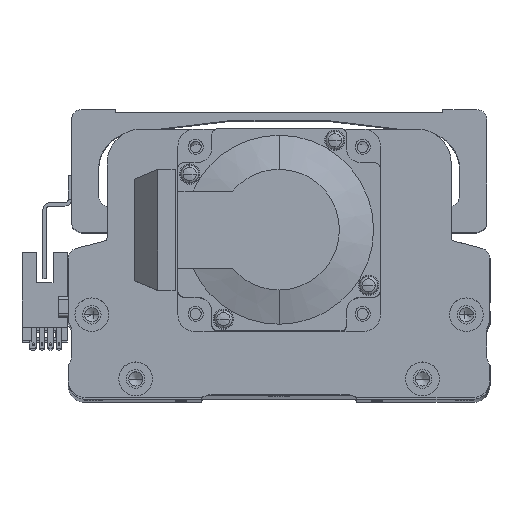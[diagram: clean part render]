
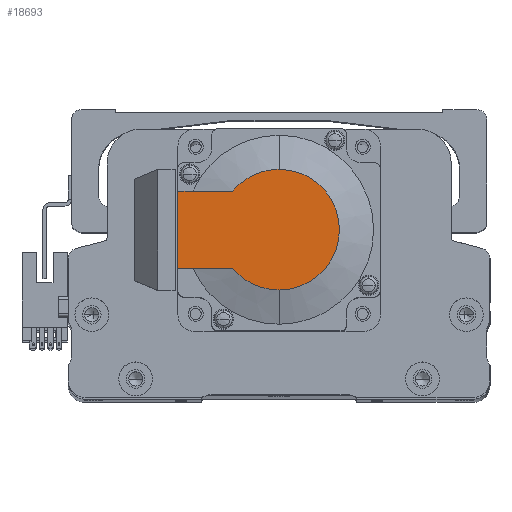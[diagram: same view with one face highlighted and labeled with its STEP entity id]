
A CAD part, top view. The second image highlights one B-rep face of the part: STEP entity #18693.
In plain terms, the highlighted planar face has unit normal (0, 0, 1) as drawn and (-1, 0, 0) by its records, which use the part's own axes.
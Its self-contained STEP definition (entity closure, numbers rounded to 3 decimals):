
#177 = DIRECTION ( 'NONE',  ( 0., 0., -1. ) ) ;
#1240 = ORIENTED_EDGE ( 'NONE', *, *, #6701, .T. ) ;
#1942 = CARTESIAN_POINT ( 'NONE',  ( -118.5, 30., -11.45 ) ) ;
#2102 = DIRECTION ( 'NONE',  ( 0., 0., -1. ) ) ;
#4297 = EDGE_CURVE ( 'NONE', #17519, #7636, #28278, .T. ) ;
#4546 = ORIENTED_EDGE ( 'NONE', *, *, #4297, .T. ) ;
#4598 = CARTESIAN_POINT ( 'NONE',  ( -118.5, 0., 0. ) ) ;
#4837 = DIRECTION ( 'NONE',  ( -1., 0., 0. ) ) ;
#5755 = EDGE_CURVE ( 'NONE', #17801, #44362, #22186, .T. ) ;
#6701 = EDGE_CURVE ( 'NONE', #29021, #17801, #25103, .T. ) ;
#7636 = VERTEX_POINT ( 'NONE', #39114 ) ;
#7734 = EDGE_CURVE ( 'NONE', #44362, #17519, #36730, .T. ) ;
#8621 = DIRECTION ( 'NONE',  ( 0., 0., -1. ) ) ;
#10024 = CARTESIAN_POINT ( 'NONE',  ( -118.5, 13.735, -11.45 ) ) ;
#11251 = CARTESIAN_POINT ( 'NONE',  ( -118.5, 30., 25. ) ) ;
#11740 = AXIS2_PLACEMENT_3D ( 'NONE', #47974, #24157, #177 ) ;
#13510 = LINE ( 'NONE', #34554, #34782 ) ;
#15302 = ORIENTED_EDGE ( 'NONE', *, *, #7734, .T. ) ;
#15319 = VERTEX_POINT ( 'NONE', #20240 ) ;
#17519 = VERTEX_POINT ( 'NONE', #20048 ) ;
#17801 = VERTEX_POINT ( 'NONE', #10024 ) ;
#18693 = ADVANCED_FACE ( 'NONE', ( #30182 ), #48459, .T. ) ;
#20048 = CARTESIAN_POINT ( 'NONE',  ( -118.5, 0., 17.881 ) ) ;
#20240 = CARTESIAN_POINT ( 'NONE',  ( -118.5, 30., 11.45 ) ) ;
#20863 = AXIS2_PLACEMENT_3D ( 'NONE', #28771, #4837, #32781 ) ;
#22186 = CIRCLE ( 'NONE', #46036, 17.881 ) ;
#24157 = DIRECTION ( 'NONE',  ( -1., 0., 0. ) ) ;
#25103 = LINE ( 'NONE', #39407, #43815 ) ;
#26051 = DIRECTION ( 'NONE',  ( -1., 0., 0. ) ) ;
#28278 = CIRCLE ( 'NONE', #49627, 17.881 ) ;
#28705 = ORIENTED_EDGE ( 'NONE', *, *, #33918, .F. ) ;
#28753 = CARTESIAN_POINT ( 'NONE',  ( -118.5, 0., -17.881 ) ) ;
#28771 = CARTESIAN_POINT ( 'NONE',  ( -118.5, -8.941, 0. ) ) ;
#29021 = VERTEX_POINT ( 'NONE', #1942 ) ;
#30182 = FACE_OUTER_BOUND ( 'NONE', #43426, .T. ) ;
#30547 = DIRECTION ( 'NONE',  ( 0., -1., 0. ) ) ;
#31550 = DIRECTION ( 'NONE',  ( 0., 0., 1. ) ) ;
#32487 = ORIENTED_EDGE ( 'NONE', *, *, #5755, .T. ) ;
#32523 = DIRECTION ( 'NONE',  ( -1., 0., 0. ) ) ;
#32735 = VECTOR ( 'NONE', #31550, 1000. ) ;
#32781 = DIRECTION ( 'NONE',  ( 0., 0., 1. ) ) ;
#33918 = EDGE_CURVE ( 'NONE', #29021, #15319, #43375, .T. ) ;
#34554 = CARTESIAN_POINT ( 'NONE',  ( -118.5, 0., 11.45 ) ) ;
#34782 = VECTOR ( 'NONE', #30547, 1000. ) ;
#35390 = DIRECTION ( 'NONE',  ( 0., -1., 0. ) ) ;
#36730 = CIRCLE ( 'NONE', #11740, 17.881 ) ;
#38781 = ORIENTED_EDGE ( 'NONE', *, *, #43186, .F. ) ;
#39114 = CARTESIAN_POINT ( 'NONE',  ( -118.5, 13.735, 11.45 ) ) ;
#39407 = CARTESIAN_POINT ( 'NONE',  ( -118.5, -8.941, -11.45 ) ) ;
#43186 = EDGE_CURVE ( 'NONE', #15319, #7636, #13510, .T. ) ;
#43375 = LINE ( 'NONE', #11251, #32735 ) ;
#43426 = EDGE_LOOP ( 'NONE', ( #1240, #32487, #15302, #4546, #38781, #28705 ) ) ;
#43815 = VECTOR ( 'NONE', #35390, 1000. ) ;
#44362 = VERTEX_POINT ( 'NONE', #28753 ) ;
#46036 = AXIS2_PLACEMENT_3D ( 'NONE', #49880, #26051, #2102 ) ;
#47974 = CARTESIAN_POINT ( 'NONE',  ( -118.5, 0., 0. ) ) ;
#48459 = PLANE ( 'NONE',  #20863 ) ;
#49627 = AXIS2_PLACEMENT_3D ( 'NONE', #4598, #32523, #8621 ) ;
#49880 = CARTESIAN_POINT ( 'NONE',  ( -118.5, 0., 0. ) ) ;
